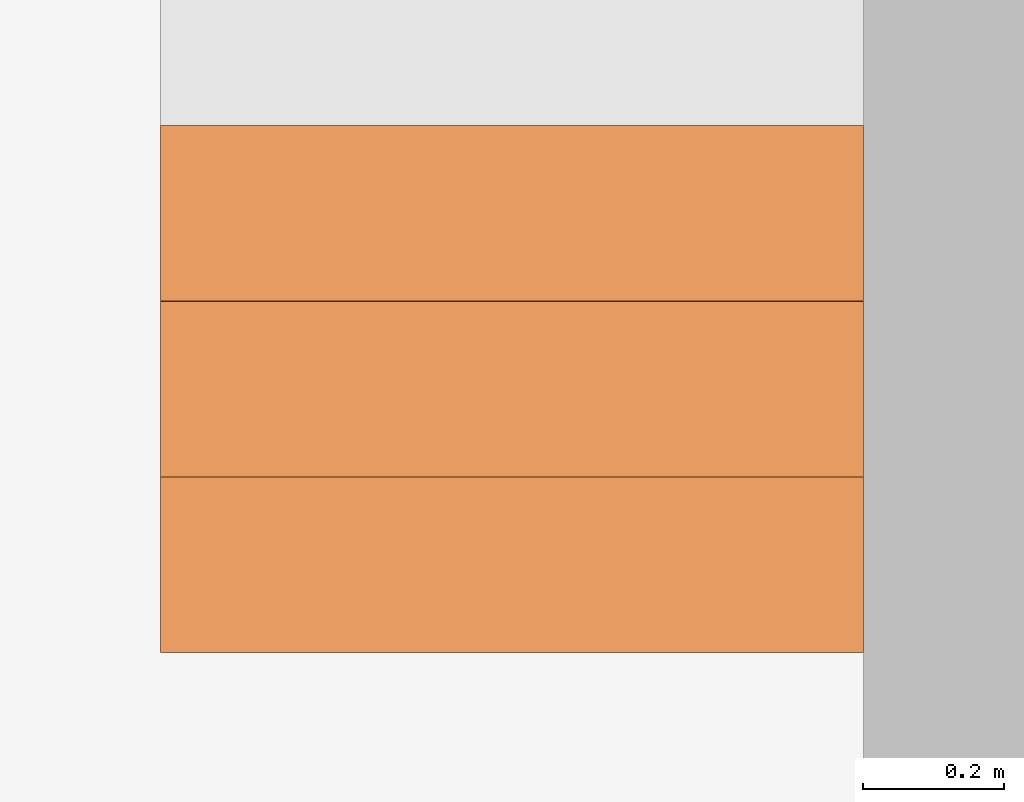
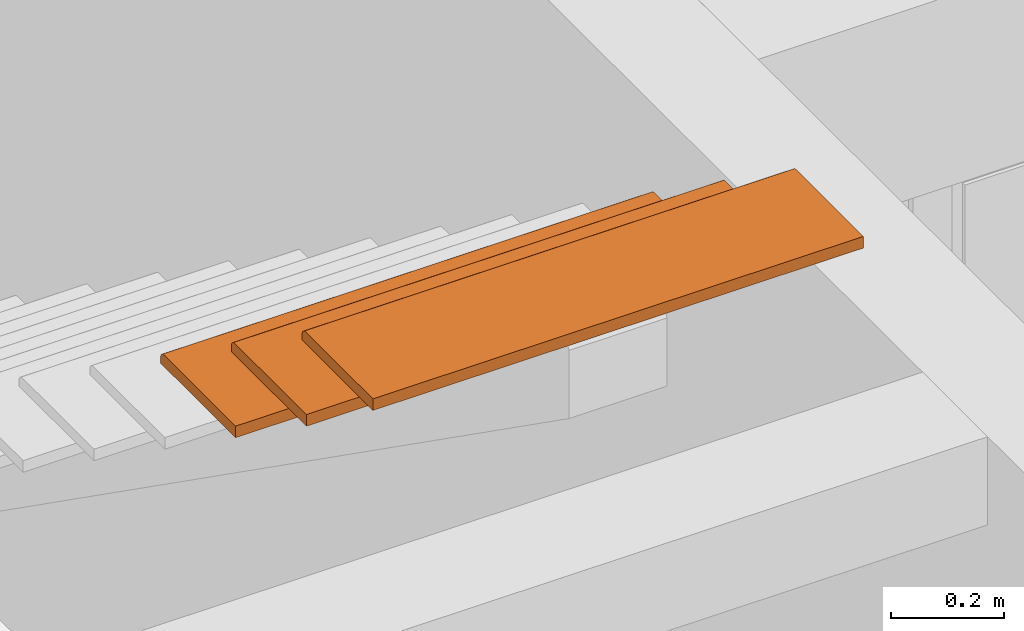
# One storey, part 14 of 17: 3 proxies, 1 element without a shape of its own.
"""IFC2X3 building model written with IfcOpenShell, lengths in metres."""

from ifc_helpers import new_model, entity, si_unit, converted_unit, derived_unit, money_unit, direction, frame, origin_with_axes, place, context, subcontext, project, spatial, faceted_brep, material, type_object, element, aggregate, save


model = new_model("IFC2X3")

# Units and contexts
model_context = context("Model", 3, precision=1e-05, world=origin_with_axes(), true_north=direction((0.0, 1.0)))
body_context = subcontext(model_context, "Body", "Model", "MODEL_VIEW")
ifc_project = project(units=[si_unit("LENGTHUNIT", "METRE"), si_unit("AREAUNIT", "SQUARE_METRE"), si_unit("VOLUMEUNIT", "CUBIC_METRE"), converted_unit("PLANEANGLEUNIT", "DEGREE", entity("IfcPlaneAngleMeasure", 0.0174532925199), si_unit("PLANEANGLEUNIT", "RADIAN"), dimensions=[0, 0, 0, 0, 0, 0, 0]), si_unit("SOLIDANGLEUNIT", "STERADIAN"), money_unit("CHF"), converted_unit("TIMEUNIT", "Year", entity("IfcTimeMeasure", 31556926.0), si_unit("TIMEUNIT", "SECOND"), dimensions=[0, 0, 1, 0, 0, 0, 0]), si_unit("MASSUNIT", "GRAM", prefix="KILO"), si_unit("THERMODYNAMICTEMPERATUREUNIT", "DEGREE_CELSIUS"), si_unit("LUMINOUSINTENSITYUNIT", "LUMEN"), si_unit("ENERGYUNIT", "JOULE", prefix="MEGA"), derived_unit("THERMALCONDUCTANCEUNIT", [(si_unit("POWERUNIT", "WATT"), 1), (si_unit("LENGTHUNIT", "METRE"), -1), (si_unit("THERMODYNAMICTEMPERATUREUNIT", "KELVIN"), -1)]), derived_unit("SPECIFICHEATCAPACITYUNIT", [(si_unit("ENERGYUNIT", "JOULE"), 1), (si_unit("MASSUNIT", "GRAM", prefix="KILO"), -1), (si_unit("THERMODYNAMICTEMPERATUREUNIT", "KELVIN"), -1)]), derived_unit("MASSDENSITYUNIT", [(si_unit("MASSUNIT", "GRAM", prefix="KILO"), 1), (si_unit("VOLUMEUNIT", "CUBIC_METRE"), -1)])], contexts=[model_context])

# Site, building, storey
site_placement = place(None, origin_with_axes())
site = spatial("IfcSite", under=ifc_project, at=site_placement, Name="Site", CompositionType="ELEMENT")
building_placement = place(site_placement, origin_with_axes())
building = spatial("IfcBuilding", under=site, at=building_placement, Name="Bâtiment", CompositionType="ELEMENT")
storey_placement = place(building_placement, frame((0.0, 0.0, 3.0), z_axis=(0.0, 0.0, 1.0), x_axis=(1.0, 0.0, 0.0)))
storey = spatial("IfcBuildingStorey", under=building, at=storey_placement, Name="RDJ", CompositionType="ELEMENT", Elevation=3.0)

# Discrete accessory, proxies
discrete_accessory_type = type_object("IfcDiscreteAccessoryType", Name="Type d'escalier")
discrete_accessory_placement = place(storey_placement, frame((90.2435190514, 18.0803410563, -2.79432731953), z_axis=(0.0, 0.0, 1.0), x_axis=(1.0, 0.0, 0.0)))
discrete_accessory = element("IfcDiscreteAccessory", 1, at=discrete_accessory_placement, inside=storey, type_object=discrete_accessory_type, Name="ESCALIER-001")
ifc_material = material(Name="Finition sol - Parquet")
building_element_proxy_type = type_object("IfcBuildingElementProxyType", Name="IfcBuildingElementProxy", PredefinedType="NOTDEFINED")
proxy_1_placement = place(discrete_accessory_placement, frame((1.0, -2.75, 2.11714285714), z_axis=(0.0, 0.0, 1.0), x_axis=(-1.0, 0.0, 0.0)))
proxy_1 = element("IfcBuildingElementProxy", 2, at=proxy_1_placement, type_object=building_element_proxy_type, material=ifc_material, Name="MARCHE-013", context=body_context, shape_type="Brep", body=[
    faceted_brep([(-0.5, 0.265, 0.0), (0.5, 0.265, 0.0), (0.5, 0.265, -0.025), (-0.5, 0.265, -0.025), (-0.5, 0.0125, 0.0), (0.5, 0.0125, 0.0), (0.5, 0.000189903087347, -0.0103293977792), (0.5, 0.0, -0.0125), (0.5, 0.0, -0.025), (0.5, 0.0103293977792, -0.000189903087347), (0.5, 0.00822474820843, -0.000753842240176), (0.5, 0.00625, -0.00167468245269), (0.5, 0.00446515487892, -0.00292444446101), (0.5, 0.00292444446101, -0.00446515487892), (0.5, 0.00167468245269, -0.00625), (0.5, 0.000753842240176, -0.00822474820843), (-0.5, 0.0, -0.025), (-0.5, 0.0, -0.0125), (-0.5, 0.000189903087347, -0.0103293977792), (-0.5, 0.000753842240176, -0.00822474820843), (-0.5, 0.00167468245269, -0.00625), (-0.5, 0.00292444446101, -0.00446515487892), (-0.5, 0.00446515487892, -0.00292444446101), (-0.5, 0.00625, -0.00167468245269), (-0.5, 0.00822474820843, -0.000753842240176), (-0.5, 0.0103293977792, -0.000189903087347)], [[[0, 1, 2, 3]], [[1, 0, 4, 5]], [[6, 7, 8, 2, 1, 5, 9, 10, 11, 12, 13, 14, 15]], [[8, 16, 3, 2]], [[4, 0, 3, 16, 17, 18, 19, 20, 21, 22, 23, 24, 25]], [[9, 5, 4, 25]], [[7, 6, 18, 17]], [[7, 17, 16, 8]], [[10, 9, 25, 24]], [[11, 10, 24, 23]], [[12, 11, 23, 22]], [[13, 12, 22, 21]], [[14, 13, 21, 20]], [[15, 14, 20, 19]], [[6, 15, 19, 18]]]),
])
proxy_2_placement = place(discrete_accessory_placement, frame((1.0, -3.0, 2.29357142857), z_axis=(0.0, 0.0, 1.0), x_axis=(-1.0, 0.0, 0.0)))
proxy_2 = element("IfcBuildingElementProxy", 3, at=proxy_2_placement, type_object=building_element_proxy_type, material=ifc_material, Name="MARCHE-014", context=body_context, shape_type="Brep", body=[
    faceted_brep([(-0.5, 0.265, 0.0), (0.5, 0.265, 0.0), (0.5, 0.265, -0.025), (-0.5, 0.265, -0.025), (-0.5, 0.0125, 0.0), (0.5, 0.0125, 0.0), (0.5, 0.000189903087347, -0.0103293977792), (0.5, 0.0, -0.0125), (0.5, 0.0, -0.025), (0.5, 0.0103293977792, -0.000189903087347), (0.5, 0.00822474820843, -0.000753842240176), (0.5, 0.00625, -0.00167468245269), (0.5, 0.00446515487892, -0.00292444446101), (0.5, 0.00292444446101, -0.00446515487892), (0.5, 0.00167468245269, -0.00625), (0.5, 0.000753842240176, -0.00822474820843), (-0.5, 0.0, -0.025), (-0.5, 0.0, -0.0125), (-0.5, 0.000189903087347, -0.0103293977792), (-0.5, 0.000753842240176, -0.00822474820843), (-0.5, 0.00167468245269, -0.00625), (-0.5, 0.00292444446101, -0.00446515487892), (-0.5, 0.00446515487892, -0.00292444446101), (-0.5, 0.00625, -0.00167468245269), (-0.5, 0.00822474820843, -0.000753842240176), (-0.5, 0.0103293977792, -0.000189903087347)], [[[0, 1, 2, 3]], [[1, 0, 4, 5]], [[6, 7, 8, 2, 1, 5, 9, 10, 11, 12, 13, 14, 15]], [[8, 16, 3, 2]], [[4, 0, 3, 16, 17, 18, 19, 20, 21, 22, 23, 24, 25]], [[9, 5, 4, 25]], [[7, 6, 18, 17]], [[7, 17, 16, 8]], [[10, 9, 25, 24]], [[11, 10, 24, 23]], [[12, 11, 23, 22]], [[13, 12, 22, 21]], [[14, 13, 21, 20]], [[15, 14, 20, 19]], [[6, 15, 19, 18]]]),
])
proxy_3_placement = place(discrete_accessory_placement, frame((1.0, -3.25, 2.47), z_axis=(0.0, 0.0, 1.0), x_axis=(-1.0, 0.0, 0.0)))
proxy_3 = element("IfcBuildingElementProxy", 4, at=proxy_3_placement, type_object=building_element_proxy_type, material=ifc_material, Name="MARCHE-033", context=body_context, shape_type="Brep", body=[
    faceted_brep([(-0.5, 0.25, 0.0), (0.5, 0.25, 0.0), (0.5, 0.25, -0.025), (-0.5, 0.25, -0.025), (-0.5, 0.0125, 0.0), (0.5, 0.0125, 0.0), (0.5, 0.000189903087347, -0.0103293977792), (0.5, 0.0, -0.0125), (0.5, 0.0, -0.025), (0.5, 0.0103293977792, -0.000189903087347), (0.5, 0.00822474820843, -0.000753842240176), (0.5, 0.00625, -0.00167468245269), (0.5, 0.00446515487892, -0.00292444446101), (0.5, 0.00292444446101, -0.00446515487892), (0.5, 0.00167468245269, -0.00625), (0.5, 0.000753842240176, -0.00822474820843), (-0.5, 0.0, -0.025), (-0.5, 0.0, -0.0125), (-0.5, 0.000189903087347, -0.0103293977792), (-0.5, 0.000753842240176, -0.00822474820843), (-0.5, 0.00167468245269, -0.00625), (-0.5, 0.00292444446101, -0.00446515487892), (-0.5, 0.00446515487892, -0.00292444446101), (-0.5, 0.00625, -0.00167468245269), (-0.5, 0.00822474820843, -0.000753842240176), (-0.5, 0.0103293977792, -0.000189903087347)], [[[0, 1, 2, 3]], [[1, 0, 4, 5]], [[6, 7, 8, 2, 1, 5, 9, 10, 11, 12, 13, 14, 15]], [[8, 16, 3, 2]], [[4, 0, 3, 16, 17, 18, 19, 20, 21, 22, 23, 24, 25]], [[9, 5, 4, 25]], [[7, 6, 18, 17]], [[7, 17, 16, 8]], [[10, 9, 25, 24]], [[11, 10, 24, 23]], [[12, 11, 23, 22]], [[13, 12, 22, 21]], [[14, 13, 21, 20]], [[15, 14, 20, 19]], [[6, 15, 19, 18]]]),
])
aggregate(discrete_accessory, [proxy_1, proxy_2, proxy_3])

save(model, "model.ifc")
